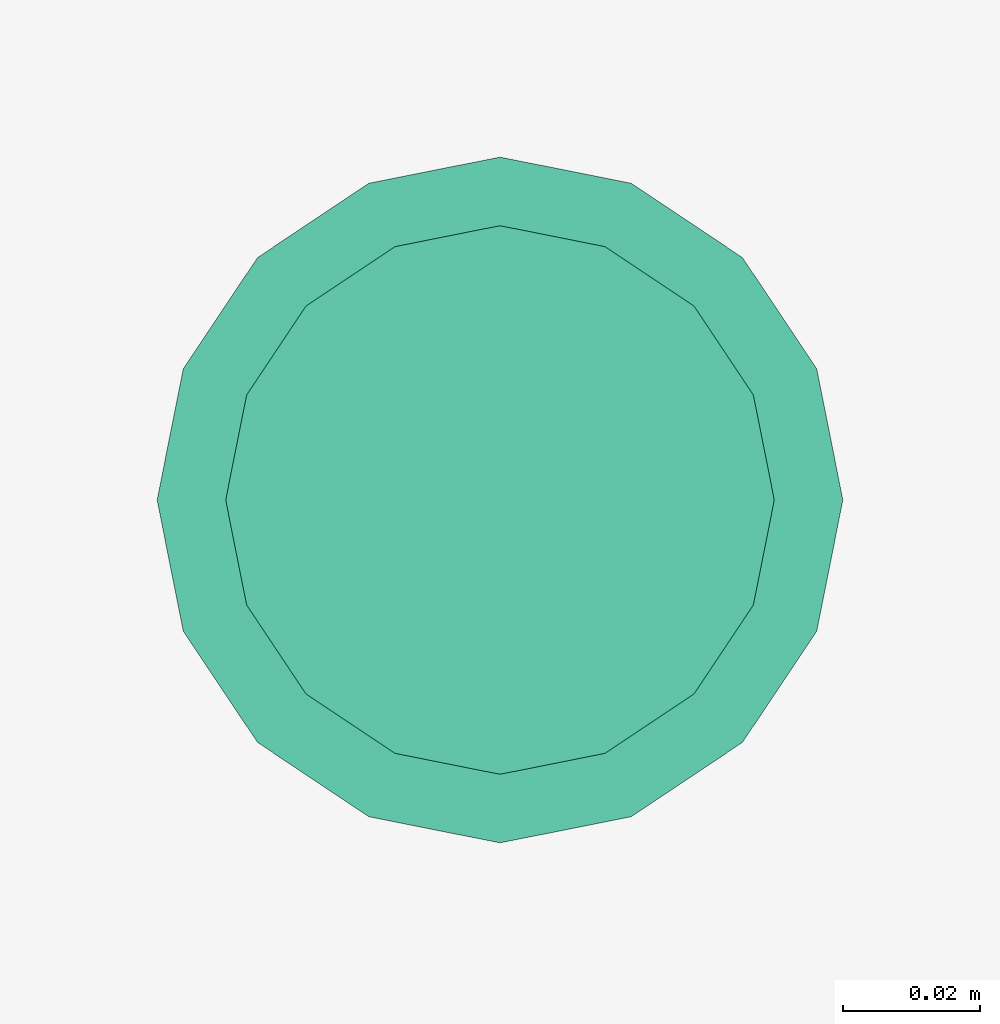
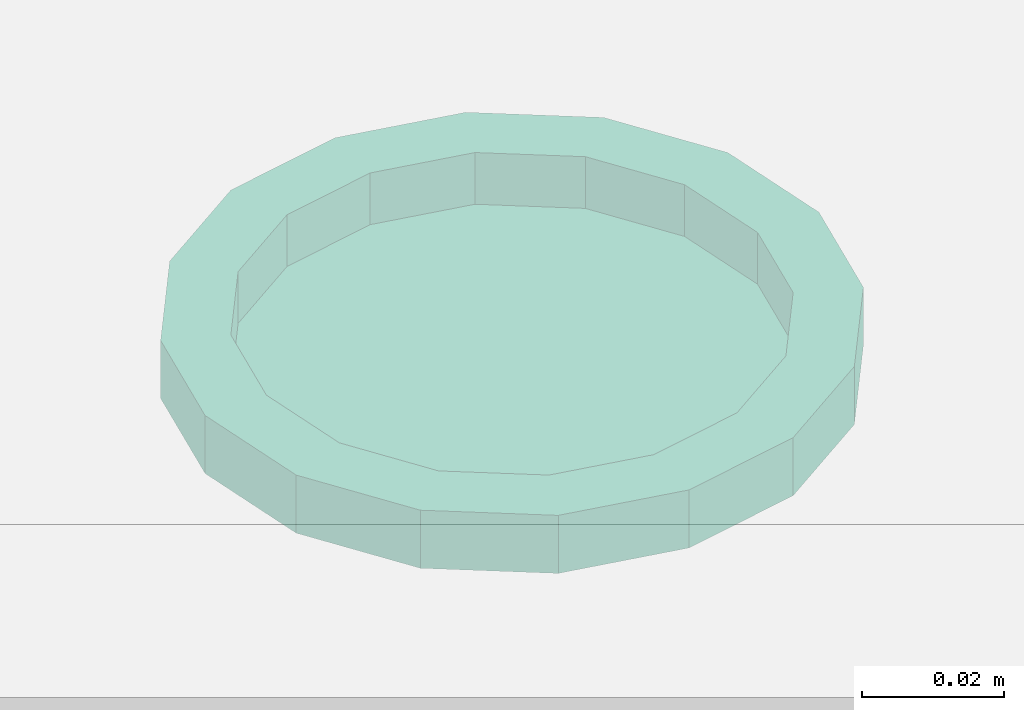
# One storey, part 230 of 347: 1 flow terminal.
"""IFC2X3 building model written with IfcOpenShell, lengths in millimetres."""

from ifc_helpers import new_model, entity, si_unit, converted_unit, derived_unit, money_unit, direction, frame, origin_with_axes, place, context, subcontext, project, spatial, open_shell, faceted_brep, surface_model, source, transform, mapped, type_object, type_shapes, element, save


model = new_model("IFC2X3")

# Units and contexts
model_context = context("Model", 3, precision=0.01, world=origin_with_axes(), true_north=direction((0.0, 1.0)))
plan_context = context("Plan", 3, precision=0.01, world=origin_with_axes(), true_north=direction((0.0, 1.0)))
body_context = subcontext(model_context, "Body", "Model", "MODEL_VIEW")
ifc_project = project(units=[si_unit("LENGTHUNIT", "METRE", prefix="MILLI"), si_unit("AREAUNIT", "SQUARE_METRE"), si_unit("VOLUMEUNIT", "CUBIC_METRE"), converted_unit("PLANEANGLEUNIT", "DEGREE", entity("IfcPlaneAngleMeasure", 0.0174532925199), si_unit("PLANEANGLEUNIT", "RADIAN"), dimensions=[0, 0, 0, 0, 0, 0, 0]), money_unit("EUR"), converted_unit("TIMEUNIT", "Year", entity("IfcTimeMeasure", 31556926.0), si_unit("TIMEUNIT", "SECOND"), dimensions=[0, 0, 1, 0, 0, 0, 0]), si_unit("MASSUNIT", "GRAM", prefix="KILO"), si_unit("THERMODYNAMICTEMPERATUREUNIT", "DEGREE_CELSIUS"), si_unit("LUMINOUSINTENSITYUNIT", "LUMEN"), si_unit("ENERGYUNIT", "JOULE", prefix="MEGA"), derived_unit("THERMALCONDUCTANCEUNIT", [(si_unit("POWERUNIT", "WATT"), 1), (si_unit("LENGTHUNIT", "METRE"), -1), (si_unit("THERMODYNAMICTEMPERATUREUNIT", "KELVIN"), -1)]), derived_unit("SPECIFICHEATCAPACITYUNIT", [(si_unit("ENERGYUNIT", "JOULE"), 1), (si_unit("MASSUNIT", "GRAM", prefix="KILO"), -1), (si_unit("THERMODYNAMICTEMPERATUREUNIT", "KELVIN"), -1)]), derived_unit("MASSDENSITYUNIT", [(si_unit("MASSUNIT", "GRAM", prefix="KILO"), 1), (si_unit("VOLUMEUNIT", "CUBIC_METRE"), -1)])], contexts=[model_context, plan_context])

# Site, building, storey
site_placement = place(None, origin_with_axes())
site = spatial("IfcSite", under=ifc_project, at=site_placement, Name="Site", CompositionType="ELEMENT")
building_placement = place(site_placement, origin_with_axes())
building = spatial("IfcBuilding", under=site, at=building_placement, Name="Naam gebouw", CompositionType="ELEMENT")
storey_placement = place(building_placement, origin_with_axes())
storey = spatial("IfcBuildingStorey", under=building, at=storey_placement, Name="begane grond", CompositionType="ELEMENT", Elevation=0.0)

# Flow terminal
lamp_type = type_object("IfcLampType", Name="Spot plafond 01 25", PredefinedType="NOTDEFINED")
shared_shape = source(origin_with_axes(), body_context, "Body", "SurfaceModel", [
    faceted_brep([(50.0, 0.0, -10.0), (46.1939766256, 19.1341716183, -10.0), (46.1939766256, 19.1341716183, 0.0), (50.0, 0.0, 0.0), (46.1939766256, -19.1341716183, -10.0), (35.3553390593, -35.3553390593, -10.0), (19.1341716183, -46.1939766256, -10.0), (0.0, -50.0, -10.0), (-19.1341716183, -46.1939766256, -10.0), (-35.3553390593, -35.3553390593, -10.0), (-46.1939766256, -19.1341716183, -10.0), (-50.0, 0.0, -10.0), (-46.1939766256, 19.1341716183, -10.0), (-35.3553390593, 35.3553390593, -10.0), (-19.1341716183, 46.1939766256, -10.0), (0.0, 50.0, -10.0), (19.1341716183, 46.1939766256, -10.0), (35.3553390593, 35.3553390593, -10.0), (40.0, 0.0, -10.0), (36.9551813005, 15.3073372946, -10.0), (28.2842712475, 28.2842712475, -10.0), (15.3073372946, 36.9551813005, -10.0), (0.0, 40.0, -10.0), (-15.3073372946, 36.9551813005, -10.0), (-28.2842712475, 28.2842712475, -10.0), (-36.9551813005, 15.3073372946, -10.0), (-40.0, 0.0, -10.0), (-36.9551813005, -15.3073372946, -10.0), (-28.2842712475, -28.2842712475, -10.0), (-15.3073372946, -36.9551813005, -10.0), (0.0, -40.0, -10.0), (15.3073372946, -36.9551813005, -10.0), (28.2842712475, -28.2842712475, -10.0), (36.9551813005, -15.3073372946, -10.0), (35.3553390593, 35.3553390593, 0.0), (19.1341716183, 46.1939766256, 0.0), (0.0, 50.0, 0.0), (-19.1341716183, 46.1939766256, 0.0), (-35.3553390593, 35.3553390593, 0.0), (-46.1939766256, 19.1341716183, 0.0), (-50.0, 0.0, 0.0), (-46.1939766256, -19.1341716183, 0.0), (-35.3553390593, -35.3553390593, 0.0), (-19.1341716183, -46.1939766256, 0.0), (0.0, -50.0, 0.0), (19.1341716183, -46.1939766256, 0.0), (35.3553390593, -35.3553390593, 0.0), (46.1939766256, -19.1341716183, 0.0), (40.0, 0.0, 0.0), (36.9551813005, -15.3073372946, 0.0), (28.2842712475, -28.2842712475, 0.0), (15.3073372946, -36.9551813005, 0.0), (0.0, -40.0, 0.0), (-15.3073372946, -36.9551813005, 0.0), (-28.2842712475, -28.2842712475, 0.0), (-36.9551813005, -15.3073372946, 0.0), (-40.0, 0.0, 0.0), (-36.9551813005, 15.3073372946, 0.0), (-28.2842712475, 28.2842712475, 0.0), (-15.3073372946, 36.9551813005, 0.0), (0.0, 40.0, 0.0), (15.3073372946, 36.9551813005, 0.0), (28.2842712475, 28.2842712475, 0.0), (36.9551813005, 15.3073372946, 0.0)], [[[0, 1, 2, 3]], [[0, 4, 5, 6, 7, 8, 9, 10, 11, 12, 13, 14, 15, 16, 17, 1], [18, 19, 20, 21, 22, 23, 24, 25, 26, 27, 28, 29, 30, 31, 32, 33]], [[1, 17, 34, 2]], [[3, 2, 34, 35, 36, 37, 38, 39, 40, 41, 42, 43, 44, 45, 46, 47], [48, 49, 50, 51, 52, 53, 54, 55, 56, 57, 58, 59, 60, 61, 62, 63]], [[4, 0, 3, 47]], [[5, 4, 47, 46]], [[6, 5, 46, 45]], [[7, 6, 45, 44]], [[8, 7, 44, 43]], [[9, 8, 43, 42]], [[10, 9, 42, 41]], [[11, 10, 41, 40]], [[12, 11, 40, 39]], [[13, 12, 39, 38]], [[14, 13, 38, 37]], [[15, 14, 37, 36]], [[16, 15, 36, 35]], [[17, 16, 35, 34]], [[19, 18, 48, 63]], [[20, 19, 63, 62]], [[21, 20, 62, 61]], [[22, 21, 61, 60]], [[23, 22, 60, 59]], [[24, 23, 59, 58]], [[25, 24, 58, 57]], [[26, 25, 57, 56]], [[27, 26, 56, 55]], [[28, 27, 55, 54]], [[29, 28, 54, 53]], [[30, 29, 53, 52]], [[31, 30, 52, 51]], [[32, 31, 51, 50]], [[33, 32, 50, 49]], [[18, 33, 49, 48]]]),
    surface_model("IfcShellBasedSurfaceModel", [(40.0, 0.0, -8.9), (36.9551813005, -15.3073372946, -8.9), (28.2842712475, -28.2842712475, -8.9), (15.3073372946, -36.9551813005, -8.9), (0.0, -40.0, -8.9), (-15.3073372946, -36.9551813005, -8.9), (-28.2842712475, -28.2842712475, -8.9), (-36.9551813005, -15.3073372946, -8.9), (-40.0, 0.0, -8.9), (-36.9551813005, 15.3073372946, -8.9), (-28.2842712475, 28.2842712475, -8.9), (-15.3073372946, 36.9551813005, -8.9), (0.0, 40.0, -8.9), (15.3073372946, 36.9551813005, -8.9), (28.2842712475, 28.2842712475, -8.9), (36.9551813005, 15.3073372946, -8.9)], [open_shell([[[0, 1, 2, 3, 4, 5, 6, 7, 8, 9, 10, 11, 12, 13, 14, 15]]])]),
])
type_shapes(lamp_type, [shared_shape])
flow_terminal_placement = place(storey_placement, frame((36372.5, 30499.9999277, 2600.0), z_axis=(0.0, 0.0, 1.0), x_axis=(1.0, 0.0, 0.0)))
element("IfcFlowTerminal", 1, at=flow_terminal_placement, inside=storey, type_object=lamp_type, Name="63_Lamp-x", ObjectType="Lamp", context=body_context, shape_type="MappedRepresentation", body=[
    mapped(shared_shape, transform((0.0, 0.0, 0.0))),
])

save(model, "model.ifc")
